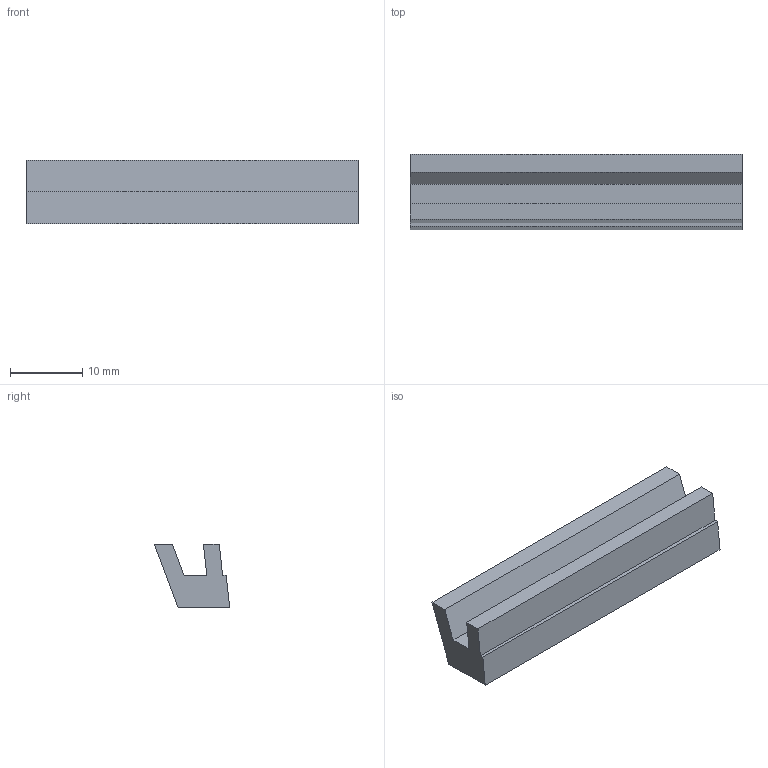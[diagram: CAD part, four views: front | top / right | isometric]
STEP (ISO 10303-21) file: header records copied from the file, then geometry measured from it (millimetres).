
FILE_DESCRIPTION(('Open CASCADE Model'),'2;1');
FILE_NAME('Open CASCADE Shape Model','2026-10-15T18:58:36',('Author'),( 'Open CASCADE'),'Open CASCADE STEP processor 7.9','Open CASCADE 7.9' ,'Unknown');
FILE_SCHEMA(('AUTOMOTIVE_DESIGN { 1 0 10303 214 1 1 1 1 }'));
Length unit declared in the file: millimetre
Products named in the file (1): Open CASCADE STEP translator 7.9 29
Bounding box: 46 x 10.43 x 8.83 mm (x, y, z)
Volume: 2540 mm3; surface area: 2078.3 mm2
Topology: 1 solids, 1 shells, 12 faces, 30 edges, 20 vertices
Faces by surface type: plane 12
Entity records: 754 total; most frequent: CARTESIAN_POINT 123, DIRECTION 116, LINE 90, VECTOR 90, ORIENTED_EDGE 60, PCURVE 60, DEFINITIONAL_REPRESENTATION 60, EDGE_CURVE 30
